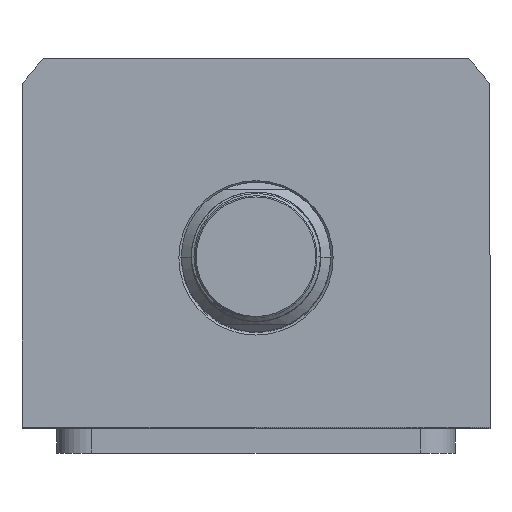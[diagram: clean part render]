
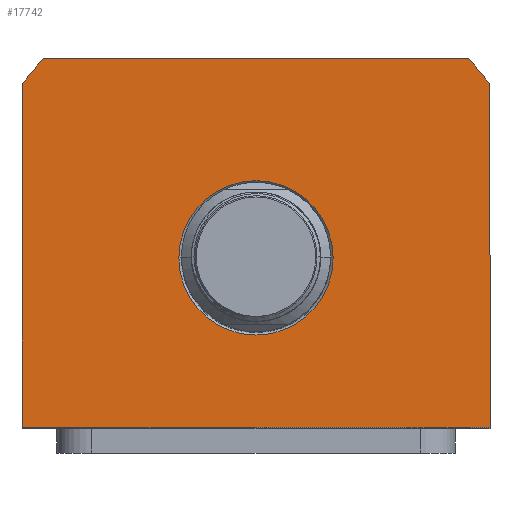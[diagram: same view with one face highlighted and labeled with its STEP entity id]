
A CAD part, top view. The second image highlights one B-rep face of the part: STEP entity #17742.
In plain terms, the highlighted planar face has unit normal (0, 0, 1).
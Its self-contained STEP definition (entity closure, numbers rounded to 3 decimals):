
#20 = DIRECTION ( 'NONE',  ( 0., -1., 0. ) ) ;
#432 = VERTEX_POINT ( 'NONE', #10767 ) ;
#760 = DIRECTION ( 'NONE',  ( 0., 1., 0. ) ) ;
#917 = CIRCLE ( 'NONE', #6608, 15.5 ) ;
#1082 = VERTEX_POINT ( 'NONE', #10261 ) ;
#1248 = DIRECTION ( 'NONE',  ( 0., 0., 1. ) ) ;
#1264 = ORIENTED_EDGE ( 'NONE', *, *, #8402, .T. ) ;
#2085 = VERTEX_POINT ( 'NONE', #11791 ) ;
#2784 = AXIS2_PLACEMENT_3D ( 'NONE', #7397, #1248, #11937 ) ;
#2902 = DIRECTION ( 'NONE',  ( -1., 0., 0. ) ) ;
#2969 = CARTESIAN_POINT ( 'NONE',  ( -47., -34., 82.5 ) ) ;
#3219 = DIRECTION ( 'NONE',  ( 0., 0., 1. ) ) ;
#3240 = LINE ( 'NONE', #8378, #6361 ) ;
#3412 = DIRECTION ( 'NONE',  ( 1., 0., 0. ) ) ;
#4002 = DIRECTION ( 'NONE',  ( 0., 0., -1. ) ) ;
#4067 = VECTOR ( 'NONE', #2902, 1000. ) ;
#4303 = ORIENTED_EDGE ( 'NONE', *, *, #6071, .T. ) ;
#4805 = CARTESIAN_POINT ( 'NONE',  ( 0., 0., 82.5 ) ) ;
#5296 = EDGE_CURVE ( 'NONE', #10221, #13931, #16457, .T. ) ;
#6071 = EDGE_CURVE ( 'NONE', #7858, #2085, #10990, .T. ) ;
#6361 = VECTOR ( 'NONE', #760, 1000. ) ;
#6608 = AXIS2_PLACEMENT_3D ( 'NONE', #9987, #4002, #19016 ) ;
#7397 = CARTESIAN_POINT ( 'NONE',  ( 0., 0., 82.5 ) ) ;
#7858 = VERTEX_POINT ( 'NONE', #14582 ) ;
#7900 = EDGE_CURVE ( 'NONE', #1082, #8942, #917, .T. ) ;
#8194 = CIRCLE ( 'NONE', #2784, 58.5 ) ;
#8378 = CARTESIAN_POINT ( 'NONE',  ( 47., 34.832, 82.5 ) ) ;
#8402 = EDGE_CURVE ( 'NONE', #2085, #10221, #11936, .T. ) ;
#8513 = ORIENTED_EDGE ( 'NONE', *, *, #9406, .T. ) ;
#8776 = ORIENTED_EDGE ( 'NONE', *, *, #5296, .T. ) ;
#8942 = VERTEX_POINT ( 'NONE', #10453 ) ;
#9273 = DIRECTION ( 'NONE',  ( 1., 0., 0. ) ) ;
#9406 = EDGE_CURVE ( 'NONE', #19227, #432, #3240, .T. ) ;
#9556 = VECTOR ( 'NONE', #3412, 1000. ) ;
#9728 = AXIS2_PLACEMENT_3D ( 'NONE', #4805, #15245, #9273 ) ;
#9957 = CARTESIAN_POINT ( 'NONE',  ( 47., -34., 82.5 ) ) ;
#9987 = CARTESIAN_POINT ( 'NONE',  ( 0., 0., 82.5 ) ) ;
#10221 = VERTEX_POINT ( 'NONE', #14506 ) ;
#10261 = CARTESIAN_POINT ( 'NONE',  ( -15.5, 0., 82.5 ) ) ;
#10453 = CARTESIAN_POINT ( 'NONE',  ( 15.5, 0., 82.5 ) ) ;
#10616 = ORIENTED_EDGE ( 'NONE', *, *, #7900, .T. ) ;
#10767 = CARTESIAN_POINT ( 'NONE',  ( 47., 34.832, 82.5 ) ) ;
#10990 = LINE ( 'NONE', #14828, #4067 ) ;
#11162 = DIRECTION ( 'NONE',  ( 1., 0., 0. ) ) ;
#11791 = CARTESIAN_POINT ( 'NONE',  ( -42.688, 40., 82.5 ) ) ;
#11936 = CIRCLE ( 'NONE', #12356, 58.5 ) ;
#11937 = DIRECTION ( 'NONE',  ( 1., 0., 0. ) ) ;
#12356 = AXIS2_PLACEMENT_3D ( 'NONE', #15870, #19029, #11162 ) ;
#12377 = PLANE ( 'NONE',  #18242 ) ;
#12765 = EDGE_LOOP ( 'NONE', ( #16754, #8513, #16685, #4303, #1264, #8776 ) ) ;
#13852 = FACE_OUTER_BOUND ( 'NONE', #12765, .T. ) ;
#13883 = CARTESIAN_POINT ( 'NONE',  ( 47., -34., 82.5 ) ) ;
#13931 = VERTEX_POINT ( 'NONE', #19526 ) ;
#14312 = LINE ( 'NONE', #13883, #9556 ) ;
#14506 = CARTESIAN_POINT ( 'NONE',  ( -47., 34.832, 82.5 ) ) ;
#14582 = CARTESIAN_POINT ( 'NONE',  ( 42.688, 40., 82.5 ) ) ;
#14828 = CARTESIAN_POINT ( 'NONE',  ( -42.688, 40., 82.5 ) ) ;
#14871 = EDGE_CURVE ( 'NONE', #432, #7858, #8194, .T. ) ;
#15207 = CARTESIAN_POINT ( 'NONE',  ( 0., 0., 82.5 ) ) ;
#15245 = DIRECTION ( 'NONE',  ( 0., 0., -1. ) ) ;
#15870 = CARTESIAN_POINT ( 'NONE',  ( 0., 0., 82.5 ) ) ;
#16225 = VECTOR ( 'NONE', #20, 1000. ) ;
#16457 = LINE ( 'NONE', #2969, #16225 ) ;
#16685 = ORIENTED_EDGE ( 'NONE', *, *, #14871, .T. ) ;
#16754 = ORIENTED_EDGE ( 'NONE', *, *, #18834, .T. ) ;
#17742 = ADVANCED_FACE ( 'NONE', ( #19762, #13852 ), #12377, .T. ) ;
#17860 = EDGE_CURVE ( 'NONE', #8942, #1082, #18345, .T. ) ;
#18242 = AXIS2_PLACEMENT_3D ( 'NONE', #15207, #3219, #19716 ) ;
#18345 = CIRCLE ( 'NONE', #9728, 15.5 ) ;
#18834 = EDGE_CURVE ( 'NONE', #13931, #19227, #14312, .T. ) ;
#19016 = DIRECTION ( 'NONE',  ( 1., 0., 0. ) ) ;
#19029 = DIRECTION ( 'NONE',  ( 0., 0., 1. ) ) ;
#19227 = VERTEX_POINT ( 'NONE', #9957 ) ;
#19526 = CARTESIAN_POINT ( 'NONE',  ( -47., -34., 82.5 ) ) ;
#19633 = ORIENTED_EDGE ( 'NONE', *, *, #17860, .T. ) ;
#19686 = EDGE_LOOP ( 'NONE', ( #19633, #10616 ) ) ;
#19716 = DIRECTION ( 'NONE',  ( 1., 0., 0. ) ) ;
#19762 = FACE_BOUND ( 'NONE', #19686, .T. ) ;
